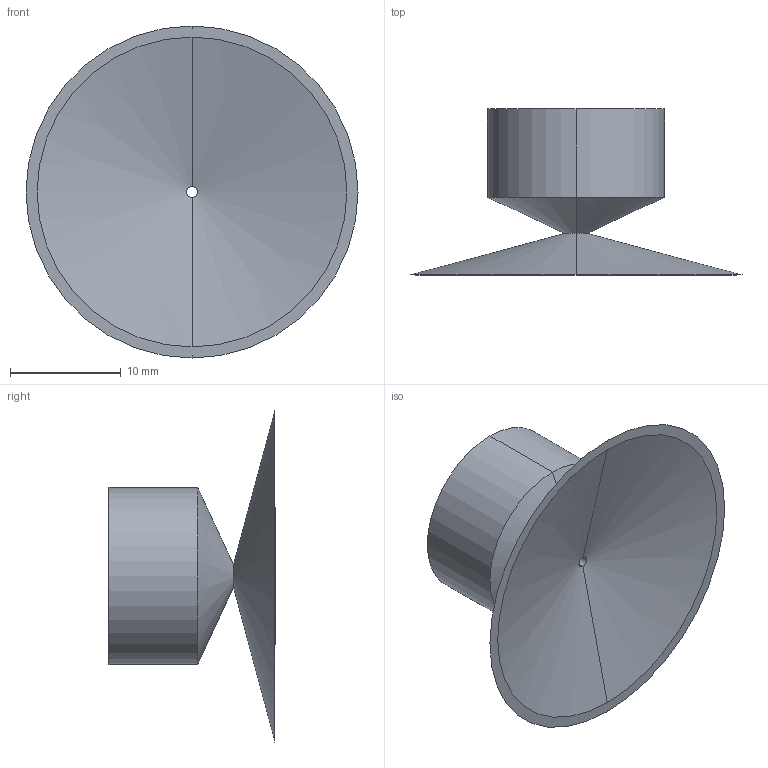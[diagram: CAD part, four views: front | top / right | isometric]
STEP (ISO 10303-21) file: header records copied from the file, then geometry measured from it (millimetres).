
FILE_DESCRIPTION (( 'STEP AP214' ), '1' );
FILE_NAME ('VSH-M30.STEP', '2019-11-30T09:15:54', ( '微软用户' ), ( '微软中国' ), 'SwSTEP 2.0', 'SolidWorks 2016', '' );
FILE_SCHEMA (( 'AUTOMOTIVE_DESIGN' ));
Length unit declared in the file: millimetre
Products named in the file (1): VSH-M30
Bounding box: 30 x 15 x 30 mm (x, y, z)
Volume: 1632.2 mm3; surface area: 2605.4 mm2
Topology: 1 solids, 1 shells, 18 faces, 36 edges, 22 vertices
Faces by surface type: cylinder 8, cone 6, plane 4
Entity records: 512 total; most frequent: DIRECTION 96, CARTESIAN_POINT 77, ORIENTED_EDGE 72, AXIS2_PLACEMENT_3D 41, EDGE_CURVE 36, CIRCLE 22, VERTEX_POINT 22, EDGE_LOOP 22
